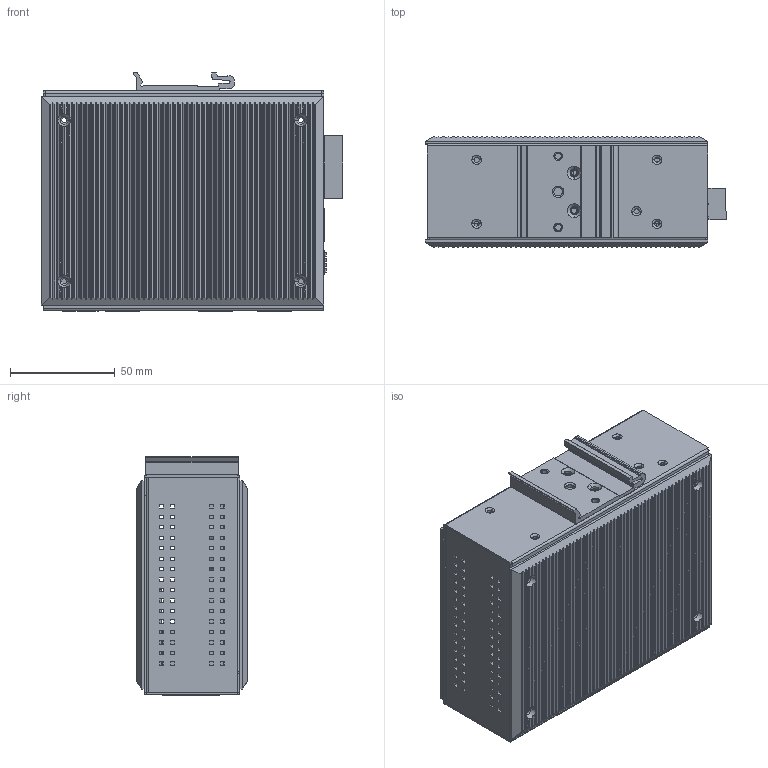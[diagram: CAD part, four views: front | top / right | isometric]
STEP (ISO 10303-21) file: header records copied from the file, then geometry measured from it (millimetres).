
FILE_DESCRIPTION((''),'2;1');
FILE_NAME('PN5-RD','2018-02-19T',('TReuther'),(''),'PRO/ENGINEER BY PARAMETRIC TECHNOLOGY CORPORATION, 2015280','PRO/ENGINEER BY PARAMETRIC TECHNOLOGY CORPORATION, 2015280','');
FILE_SCHEMA(('CONFIG_CONTROL_DESIGN'));
Products named in the file (1): PN5-RD
Bounding box: 144.05 x 52.98 x 114.1 mm (x, y, z)
Surface area: 219944.6 mm2 (no closed solid volume)
Topology: 0 solids, 31 shells, 2368 faces, 6346 edges, 4166 vertices
Faces by surface type: plane 1499, cylinder 741, cone 58, torus 42, bspline 28
Entity records: 75080 total; most frequent: CARTESIAN_POINT 15467, ORIENTED_EDGE 12672, DIRECTION 11672, EDGE_CURVE 6344, VECTOR 4364, LINE 4364, VERTEX_POINT 4165, AXIS2_PLACEMENT_3D 3654
